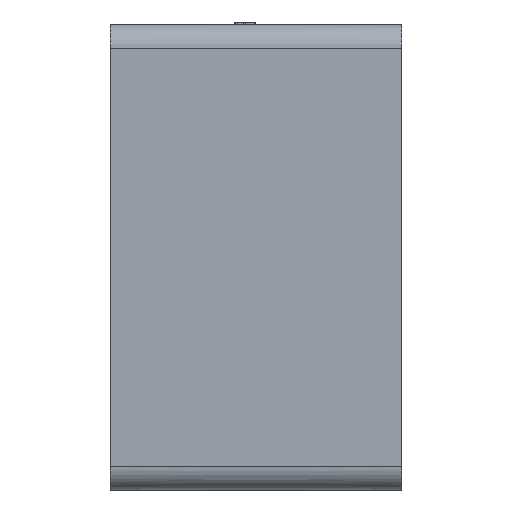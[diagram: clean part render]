
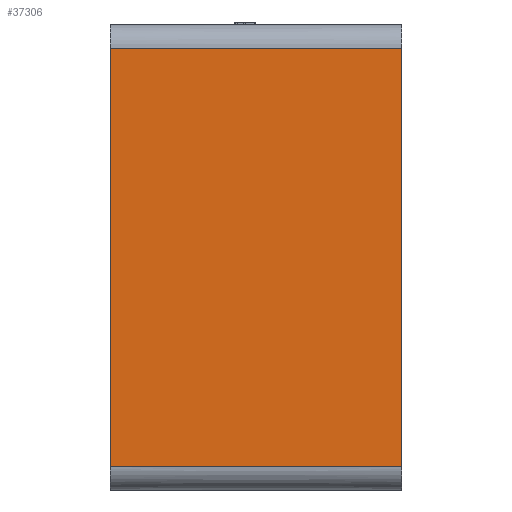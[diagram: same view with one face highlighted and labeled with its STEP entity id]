
A CAD part, left-side view. The second image highlights one B-rep face of the part: STEP entity #37306.
In plain terms, the highlighted planar face has unit normal (-1, 0, 0).
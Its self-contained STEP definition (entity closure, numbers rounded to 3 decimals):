
#479 = VERTEX_POINT ( 'NONE', #6104 ) ;
#480 = EDGE_CURVE ( 'NONE', #479, #485, #6055, .T. ) ;
#485 = VERTEX_POINT ( 'NONE', #6183 ) ;
#6050 = DIRECTION ( 'NONE',  ( 0., 0., 1. ) ) ;
#6052 = VECTOR ( 'NONE', #6050, 39.37 ) ;
#6054 = CARTESIAN_POINT ( 'NONE',  ( -11.33, -11., 0. ) ) ;
#6055 = LINE ( 'NONE', #6054, #6052 ) ;
#6104 = CARTESIAN_POINT ( 'NONE',  ( -11.33, -11., -7.905 ) ) ;
#6183 = CARTESIAN_POINT ( 'NONE',  ( -11.33, -11., 7.905 ) ) ;
#37184 = EDGE_LOOP ( 'NONE', ( #37185, #37186, #37189, #37191 ) ) ;
#37185 = ORIENTED_EDGE ( 'NONE', *, *, #480, .T. ) ;
#37186 = ORIENTED_EDGE ( 'NONE', *, *, #37187, .F. ) ;
#37187 = EDGE_CURVE ( 'NONE', #37188, #485, #44966, .T. ) ;
#37188 = VERTEX_POINT ( 'NONE', #44959 ) ;
#37189 = ORIENTED_EDGE ( 'NONE', *, *, #37190, .F. ) ;
#37190 = EDGE_CURVE ( 'NONE', #37211, #37188, #44953, .T. ) ;
#37191 = ORIENTED_EDGE ( 'NONE', *, *, #37209, .T. ) ;
#37209 = EDGE_CURVE ( 'NONE', #37211, #479, #45358, .T. ) ;
#37211 = VERTEX_POINT ( 'NONE', #45350 ) ;
#37306 = ADVANCED_FACE ( 'NONE', ( #45223 ), #45218, .T. ) ;
#44949 = DIRECTION ( 'NONE',  ( 0., 0., 1. ) ) ;
#44951 = VECTOR ( 'NONE', #44949, 39.37 ) ;
#44952 = CARTESIAN_POINT ( 'NONE',  ( -11.33, 0., 0. ) ) ;
#44953 = LINE ( 'NONE', #44952, #44951 ) ;
#44959 = CARTESIAN_POINT ( 'NONE',  ( -11.33, 0., 7.905 ) ) ;
#44961 = DIRECTION ( 'NONE',  ( 0., -1., 0. ) ) ;
#44963 = VECTOR ( 'NONE', #44961, 39.37 ) ;
#44965 = CARTESIAN_POINT ( 'NONE',  ( -11.33, -5.5, 7.905 ) ) ;
#44966 = LINE ( 'NONE', #44965, #44963 ) ;
#45215 = CARTESIAN_POINT ( 'NONE',  ( -11.33, -11., -7.905 ) ) ;
#45217 = AXIS2_PLACEMENT_3D ( 'NONE', #45215, #45862, #45875 ) ;
#45218 = PLANE ( 'NONE',  #45217 ) ;
#45223 = FACE_OUTER_BOUND ( 'NONE', #37184, .T. ) ;
#45350 = CARTESIAN_POINT ( 'NONE',  ( -11.33, 0., -7.905 ) ) ;
#45352 = DIRECTION ( 'NONE',  ( 0., -1., 0. ) ) ;
#45354 = VECTOR ( 'NONE', #45352, 39.37 ) ;
#45357 = CARTESIAN_POINT ( 'NONE',  ( -11.33, -5.5, -7.905 ) ) ;
#45358 = LINE ( 'NONE', #45357, #45354 ) ;
#45862 = DIRECTION ( 'NONE',  ( -1., 0., 0. ) ) ;
#45875 = DIRECTION ( 'NONE',  ( 0., 0., 1. ) ) ;
